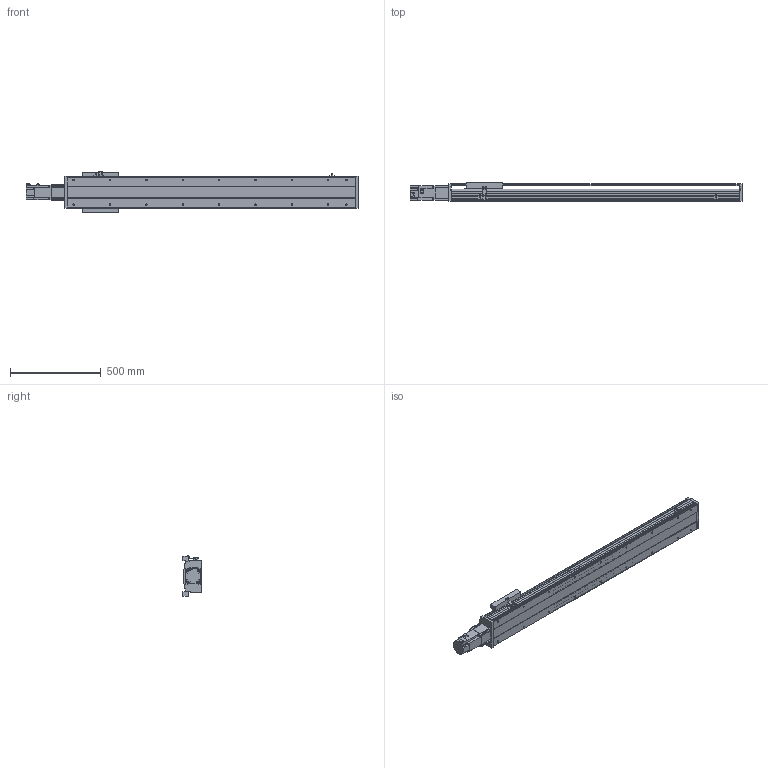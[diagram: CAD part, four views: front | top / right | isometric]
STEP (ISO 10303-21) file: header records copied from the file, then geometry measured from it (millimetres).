
FILE_DESCRIPTION(/* description */ ('STEP AP214'),/* implementation_level */ '2;1');
FILE_NAME(/* name */ 'PSS200-L10-S1250-BC-T75-C1-N(0)',/* time_stamp */ '2022-06-06T04:37:20+02:00',/* author */ ('License CC BY-ND 4.0'),/* organization */ ('CADENAS'),/* preprocessor_version */ 'ST-DEVELOPER v18.102',/* originating_system */ 'PARTsolutions',/* authorisation */ ' ');
FILE_SCHEMA (('AUTOMOTIVE_DESIGN {1 0 10303 214 3 1 1}'));
Length unit declared in the file: millimetre
Products named in the file (8): PSS200-L10-S1250-BC-T75-C1-N(0); PSS200-S1250-BC-N_S; T75-p1; PSS200BC-N_h; PSS200-N_sensor; PSS200-BC-C1-N_sl; PSS200-N_Q; PSS200-S1250-BC-C1-N_body
Assembly tree (9 placements, depth 2):
  PSS200-L10-S1250-BC-T75-C1-N(0)
    PSS200-S1250-BC-N_S
    T75-p1
    PSS200BC-N_h
    PSS200-N_sensor  x3
    PSS200-BC-C1-N_sl
    PSS200-N_Q
    PSS200-S1250-BC-C1-N_body
Bounding box: 1826.3 x 101.5 x 223.86 mm (x, y, z)
Volume: 9712964.4 mm3; surface area: 2545397.9 mm2
Topology: 9 solids, 9 shells, 589 faces, 1579 edges, 1048 vertices
Faces by surface type: plane 439, cylinder 124, cone 26
Full cylindrical faces by diameter (mm): 4 x2, 4.5 x4, 6 x11, 6.647 x22, 8 x8, 10 x6, 25 x1, 67 x1, 70 x1
Entity records: 16382 total; most frequent: CARTESIAN_POINT 2828, DIRECTION 2701, ORIENTED_EDGE 2666, EDGE_CURVE 1333, LINE 1051, VECTOR 1051, VERTEX_POINT 932, AXIS2_PLACEMENT_3D 825
